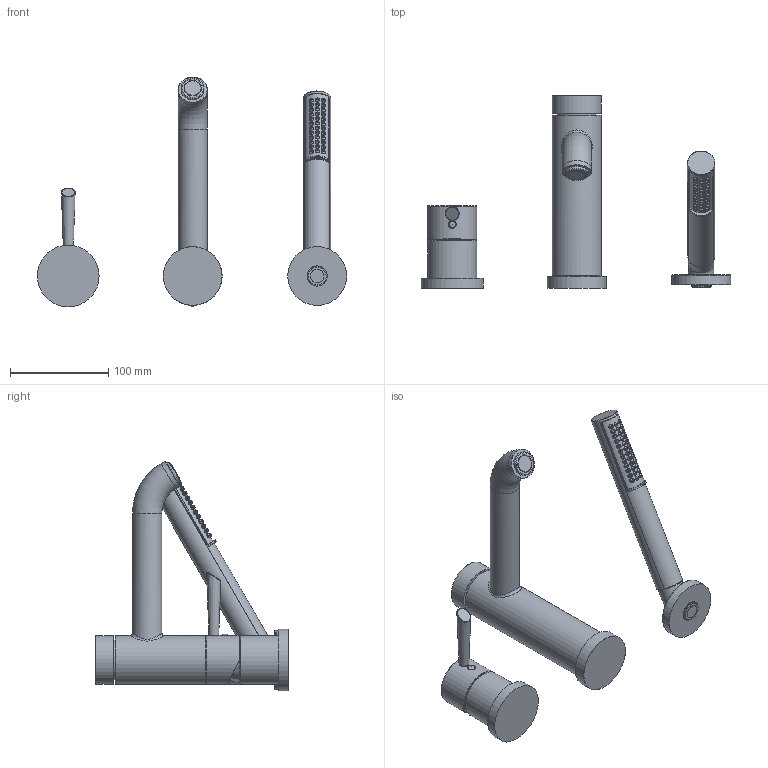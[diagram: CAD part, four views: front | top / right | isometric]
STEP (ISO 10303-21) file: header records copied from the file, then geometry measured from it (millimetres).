
FILE_DESCRIPTION(/* description */ (''),/* implementation_level */ '2;1');
FILE_NAME(/* name */ 'X:\Utilisateurs\Francois\TVS10 3D.stp',/* time_stamp */ '2016-11-04T11:20:42-04:00',/* author */ ('francoisj'),/* organization */ (''),/* preprocessor_version */ 'ST-DEVELOPER v15.6',/* originating_system */ 'Autodesk Inventor 2015',/* authorisation */ '');
FILE_SCHEMA (('CONFIG_CONTROL_DESIGN'));
Length unit declared in the file: millimetre
Products named in the file (1): VS10_Shrinkwrap_1
Bounding box: 315.49 x 196.5 x 234.38 mm (x, y, z)
Volume: 834792.7 mm3; surface area: 115428.6 mm2
Topology: 3 solids, 3 shells, 408 faces, 1011 edges, 656 vertices
Faces by surface type: cylinder 122, bspline 95, plane 75, cone 63, torus 44, sphere 9
Full cylindrical faces by diameter (mm): 7 x1, 8 x1, 13.65 x1, 18 x1, 18.3 x1, 20 x1, 26 x2, 28 x1, 30 x2, 40 x1, 47 x1, 50 x4, 60 x2, 63 x1
Entity records: 39773 total; most frequent: CARTESIAN_POINT 31291, ORIENTED_EDGE 1762, DIRECTION 1308, EDGE_CURVE 876, VERTEX_POINT 625, AXIS2_PLACEMENT_3D 586, EDGE_LOOP 558, B_SPLINE_CURVE_WITH_KNOTS 434
